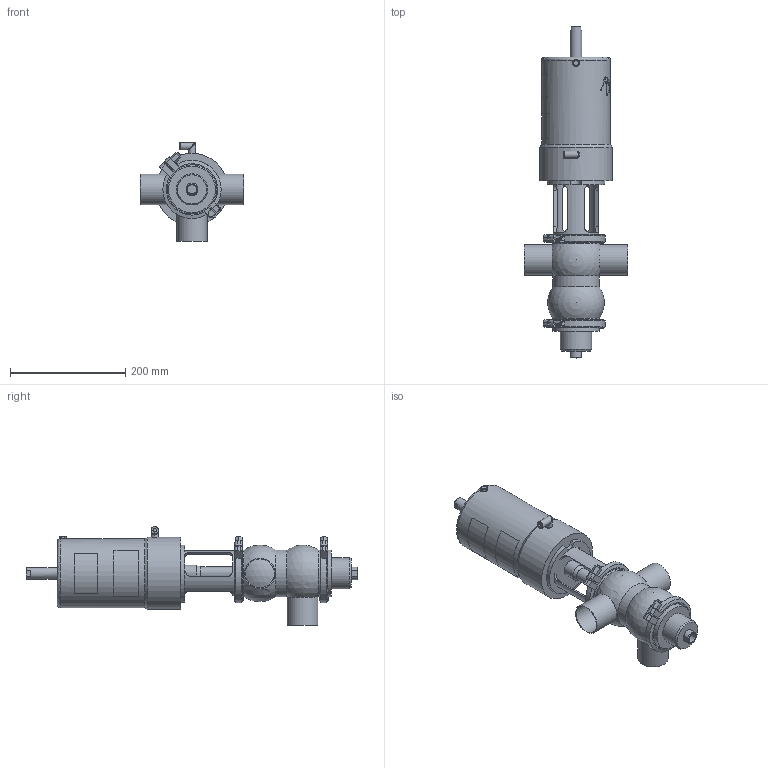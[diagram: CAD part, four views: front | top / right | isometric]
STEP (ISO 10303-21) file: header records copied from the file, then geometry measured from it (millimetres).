
FILE_DESCRIPTION (( 'STEP AP214' ), '1' );
FILE_NAME ('INNOVA S AB-90 W DIN 050_10.251.16.0001.STEP', '2024-08-20T12:09:30', ( '' ), ( '' ), 'SwSTEP 2.0', 'SolidWorks 2023', '' );
FILE_SCHEMA (( 'AUTOMOTIVE_DESIGN' ));
Length unit declared in the file: millimetre
Products named in the file (6): INNOVA S AB-90 W DIN 050_10.251.16.0001; 10.251.15.0003_DIN 050; 10.240.15.0001_DN 050; 10.250.15.0002_Type S T1; 10.251.15.0001_DN 050; 10.251.15.0002_DN 050
Assembly tree (6 placements, depth 2):
  INNOVA S AB-90 W DIN 050_10.251.16.0001
    10.251.15.0001_DN 050
    10.250.15.0002_Type S T1
    10.251.15.0003_DIN 050
    10.240.15.0001_DN 050  x2
    10.251.15.0002_DN 050
Bounding box: 180 x 575 x 171 mm (x, y, z)
Volume: 3859019 mm3; surface area: 328607.9 mm2
Topology: 6 solids, 6 shells, 425 faces, 1103 edges, 717 vertices
Faces by surface type: plane 202, cylinder 110, bspline 80, cone 27, sphere 5, torus 1
Full cylindrical faces by diameter (mm): 4.2 x2, 5 x1, 6 x1, 6.15 x1, 8 x4, 8.5 x1, 10.5 x2, 12.5 x6, 16 x1, 20 x1, 23 x1, 28 x1, 50 x3, 53 x3, 54 x1, 78 x1, 81 x4, 93 x4, 119.5 x1, 125 x1
Entity records: 21213 total; most frequent: CARTESIAN_POINT 11048, ORIENTED_EDGE 1732, DIRECTION 1359, EDGE_CURVE 866, VERTEX_POINT 593, AXIS2_PLACEMENT_3D 521, EDGE_LOOP 457, FACE_OUTER_BOUND 408
